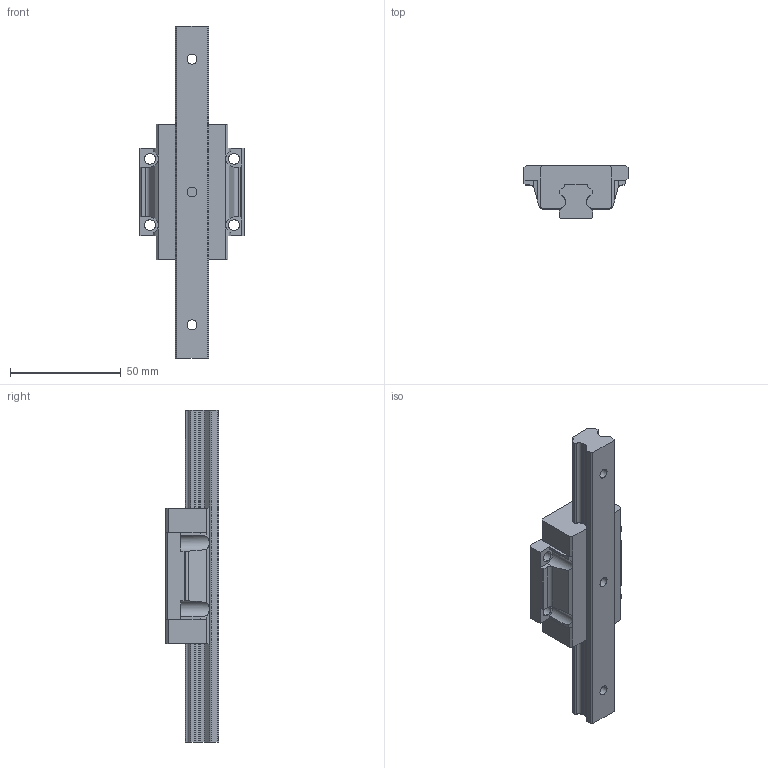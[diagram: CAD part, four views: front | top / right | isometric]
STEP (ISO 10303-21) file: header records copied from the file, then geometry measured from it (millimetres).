
FILE_DESCRIPTION (( 'STEP AP214' ), '1' );
FILE_NAME ('2.1001 Lineaarikelkka HGW15CC.STEP', '2024-04-25T06:55:12', ( '' ), ( '' ), 'SwSTEP 2.0', 'SolidWorks 2024', '' );
FILE_SCHEMA (( 'AUTOMOTIVE_DESIGN' ));
Length unit declared in the file: millimetre
Products named in the file (1): 2.1001 Lineaarikelkka HGW15CC
Bounding box: 47 x 24 x 150 mm (x, y, z)
Volume: 63014.5 mm3; surface area: 20763.2 mm2
Topology: 2 solids, 2 shells, 163 faces, 460 edges, 304 vertices
Faces by surface type: plane 111, cylinder 52
Entity records: 7111 total; most frequent: CARTESIAN_POINT 988, ORIENTED_EDGE 920, DIRECTION 872, EDGE_CURVE 460, LINE 336, VECTOR 336, VERTEX_POINT 304, AXIS2_PLACEMENT_3D 268
